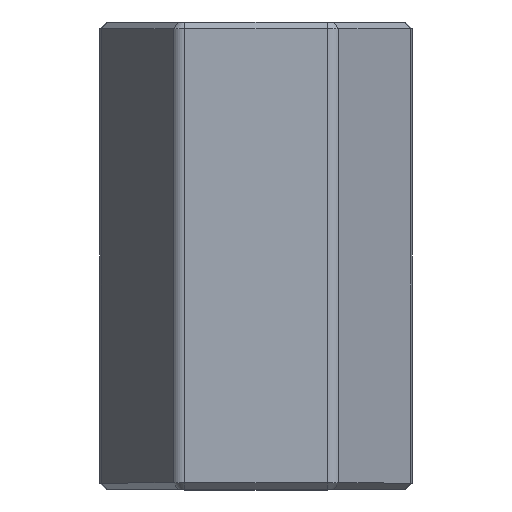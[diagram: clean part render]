
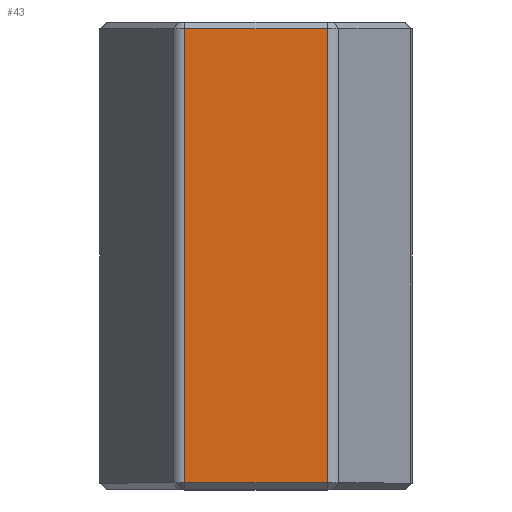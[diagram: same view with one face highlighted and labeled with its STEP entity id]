
A CAD part, top view. The second image highlights one B-rep face of the part: STEP entity #43.
In plain terms, the highlighted planar face has unit normal (0, 0, 1).
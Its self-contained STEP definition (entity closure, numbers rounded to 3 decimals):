
#43=ADVANCED_FACE('',(#123),#122,.T.);
#122=PLANE('',#638);
#123=FACE_OUTER_BOUND('',#639,.T.);
#635=CARTESIAN_POINT('',(-12.817,-5.8,20.5));
#636=DIRECTION('',(0.,0.,1.));
#637=DIRECTION('',(1.,0.,0.));
#638=AXIS2_PLACEMENT_3D('',#635,#636,#637);
#639=EDGE_LOOP('',(#940,#941,#942,#943));
#940=ORIENTED_EDGE('',*,*,#1163,.T.);
#941=ORIENTED_EDGE('',*,*,#1164,.T.);
#942=ORIENTED_EDGE('',*,*,#1165,.T.);
#943=ORIENTED_EDGE('',*,*,#1162,.T.);
#1162=EDGE_CURVE('',#1320,#1292,#1334,.T.);
#1163=EDGE_CURVE('',#1292,#1340,#1341,.T.);
#1164=EDGE_CURVE('',#1340,#1347,#1348,.T.);
#1165=EDGE_CURVE('',#1347,#1320,#1354,.T.);
#1292=VERTEX_POINT('',#2020);
#1320=VERTEX_POINT('',#2038);
#1334=LINE('',#2046,#2047);
#1340=VERTEX_POINT('',#2049);
#1341=LINE('',#2050,#2051);
#1347=VERTEX_POINT('',#2053);
#1348=LINE('',#2054,#2055);
#1354=LINE('',#2057,#2058);
#2020=CARTESIAN_POINT('',(10.681,1.,20.5));
#2038=CARTESIAN_POINT('',(-10.681,1.,20.5));
#2046=CARTESIAN_POINT('',(-10.681,1.,20.5));
#2047=VECTOR('',#2048,21.362);
#2048=DIRECTION('',(1.,0.,0.));
#2049=CARTESIAN_POINT('',(10.681,69.,20.5));
#2050=CARTESIAN_POINT('',(10.681,1.,20.5));
#2051=VECTOR('',#2052,68.);
#2052=DIRECTION('',(0.,1.,0.));
#2053=CARTESIAN_POINT('',(-10.681,69.,20.5));
#2054=CARTESIAN_POINT('',(10.681,69.,20.5));
#2055=VECTOR('',#2056,21.362);
#2056=DIRECTION('',(-1.,0.,0.));
#2057=CARTESIAN_POINT('',(-10.681,69.,20.5));
#2058=VECTOR('',#2059,68.);
#2059=DIRECTION('',(0.,-1.,0.));
